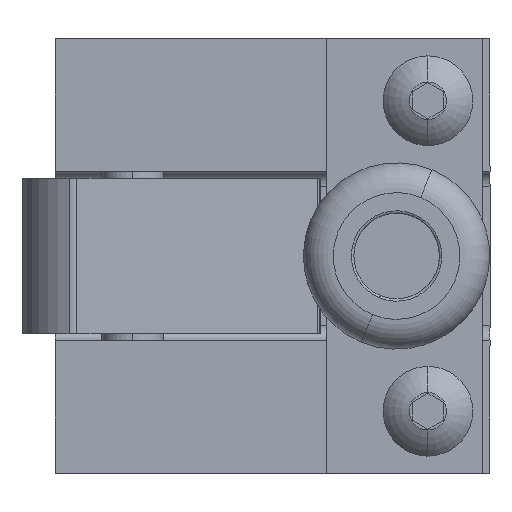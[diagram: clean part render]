
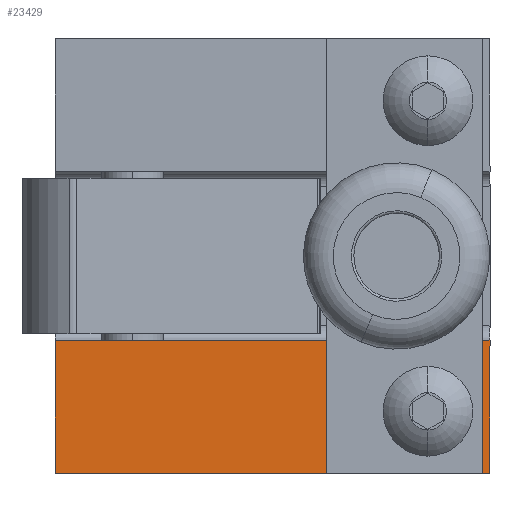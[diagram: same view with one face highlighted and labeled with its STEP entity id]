
A CAD part, left-side view. The second image highlights one B-rep face of the part: STEP entity #23429.
In plain terms, the highlighted planar face has unit normal (-1, 0, 0).
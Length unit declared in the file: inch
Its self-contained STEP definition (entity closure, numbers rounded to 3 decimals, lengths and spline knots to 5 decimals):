
#17147 = CARTESIAN_POINT ( 'NONE',  ( 7.4273, 5.34026, -1.75 ) ) ;
#17247 = CARTESIAN_POINT ( 'NONE',  ( 7.4273, 3.59026, -1.75 ) ) ;
#17342 = CARTESIAN_POINT ( 'NONE',  ( 7.4273, 5.34026, -1.215 ) ) ;
#17387 = DIRECTION ( 'NONE',  ( 0., 0., 1. ) ) ;
#17388 = VECTOR ( 'NONE', #17387, 39.37008 ) ;
#17389 = CARTESIAN_POINT ( 'NONE',  ( 7.4273, 3.59026, -1.75 ) ) ;
#17390 = LINE ( 'NONE', #17389, #17388 ) ;
#17483 = AXIS2_PLACEMENT_3D ( 'NONE', #17508, #17507, #17506 ) ;
#17484 = CIRCLE ( 'NONE', #17483, 0.09375 ) ;
#17485 = DIRECTION ( 'NONE',  ( 0., -1., 0. ) ) ;
#17486 = VECTOR ( 'NONE', #17485, 39.37008 ) ;
#17487 = CARTESIAN_POINT ( 'NONE',  ( 7.4273, 3.59026, -1.75 ) ) ;
#17488 = LINE ( 'NONE', #17487, #17486 ) ;
#17489 = DIRECTION ( 'NONE',  ( 0., -1., 0. ) ) ;
#17490 = VECTOR ( 'NONE', #17489, 39.37008 ) ;
#17491 = CARTESIAN_POINT ( 'NONE',  ( 7.4273, 3.59026, -1.215 ) ) ;
#17492 = LINE ( 'NONE', #17491, #17490 ) ;
#17506 = DIRECTION ( 'NONE',  ( 0., 0., 1. ) ) ;
#17507 = DIRECTION ( 'NONE',  ( -1., 0., 0. ) ) ;
#17508 = CARTESIAN_POINT ( 'NONE',  ( 7.4273, 3.84026, -1.5 ) ) ;
#17612 = CARTESIAN_POINT ( 'NONE',  ( 7.4273, 3.84026, -1.40625 ) ) ;
#17613 = DIRECTION ( 'NONE',  ( 0., 0., 1. ) ) ;
#17614 = DIRECTION ( 'NONE',  ( -1., 0., 0. ) ) ;
#17615 = CARTESIAN_POINT ( 'NONE',  ( 7.4273, 3.84026, -1.5 ) ) ;
#17616 = AXIS2_PLACEMENT_3D ( 'NONE', #17615, #17614, #17613 ) ;
#17617 = CIRCLE ( 'NONE', #17616, 0.09375 ) ;
#17618 = LINE ( 'NONE', #17696, #17695 ) ;
#17633 = CARTESIAN_POINT ( 'NONE',  ( 7.4273, 3.59026, -1.215 ) ) ;
#17694 = DIRECTION ( 'NONE',  ( 0., 0., 1. ) ) ;
#17695 = VECTOR ( 'NONE', #17694, 39.37008 ) ;
#17696 = CARTESIAN_POINT ( 'NONE',  ( 7.4273, 5.34026, -1.75 ) ) ;
#17697 = PLANE ( 'NONE',  #17849 ) ;
#17698 = FACE_BOUND ( 'NONE', #23310, .T. ) ;
#17752 = CARTESIAN_POINT ( 'NONE',  ( 7.4273, 3.84026, -1.59375 ) ) ;
#17792 = FACE_OUTER_BOUND ( 'NONE', #23461, .T. ) ;
#17846 = DIRECTION ( 'NONE',  ( 0., 0., 1. ) ) ;
#17847 = DIRECTION ( 'NONE',  ( -1., 0., 0. ) ) ;
#17848 = CARTESIAN_POINT ( 'NONE',  ( 7.4273, 3.59026, -1.75 ) ) ;
#17849 = AXIS2_PLACEMENT_3D ( 'NONE', #17848, #17847, #17846 ) ;
#23265 = VERTEX_POINT ( 'NONE', #17147 ) ;
#23281 = VERTEX_POINT ( 'NONE', #17247 ) ;
#23282 = ORIENTED_EDGE ( 'NONE', *, *, #23446, .F. ) ;
#23307 = ORIENTED_EDGE ( 'NONE', *, *, #23333, .T. ) ;
#23308 = ORIENTED_EDGE ( 'NONE', *, *, #23516, .F. ) ;
#23310 = EDGE_LOOP ( 'NONE', ( #23594, #23308 ) ) ;
#23311 = EDGE_CURVE ( 'NONE', #23281, #23532, #17390, .T. ) ;
#23332 = EDGE_CURVE ( 'NONE', #23398, #23532, #17492, .T. ) ;
#23333 = EDGE_CURVE ( 'NONE', #23265, #23281, #17488, .T. ) ;
#23334 = EDGE_CURVE ( 'NONE', #23517, #23465, #17484, .T. ) ;
#23383 = ORIENTED_EDGE ( 'NONE', *, *, #23311, .T. ) ;
#23398 = VERTEX_POINT ( 'NONE', #17342 ) ;
#23429 = ADVANCED_FACE ( 'NONE', ( #17792, #17698 ), #17697, .T. ) ;
#23446 = EDGE_CURVE ( 'NONE', #23265, #23398, #17618, .T. ) ;
#23461 = EDGE_LOOP ( 'NONE', ( #23462, #23282, #23307, #23383 ) ) ;
#23462 = ORIENTED_EDGE ( 'NONE', *, *, #23332, .F. ) ;
#23465 = VERTEX_POINT ( 'NONE', #17752 ) ;
#23516 = EDGE_CURVE ( 'NONE', #23465, #23517, #17617, .T. ) ;
#23517 = VERTEX_POINT ( 'NONE', #17612 ) ;
#23532 = VERTEX_POINT ( 'NONE', #17633 ) ;
#23594 = ORIENTED_EDGE ( 'NONE', *, *, #23334, .F. ) ;
